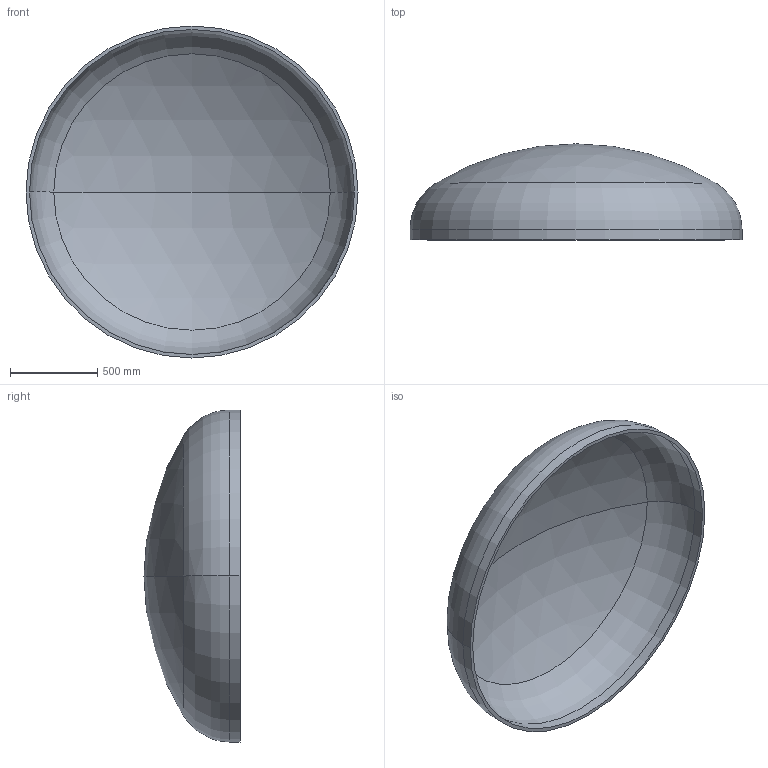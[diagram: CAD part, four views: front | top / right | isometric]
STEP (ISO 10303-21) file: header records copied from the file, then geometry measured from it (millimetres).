
FILE_DESCRIPTION (( 'STEP AP203' ), '1' );
FILE_NAME ('DIN 28013 Korbbogenform_-_Boden DIN 28013 - 1900 x 60 - I - s=20.step', '2016-07-01T12:59:02', ( '' ), ( '' ), 'SwSTEP 2.0', 'SolidWorks 2013', '' );
FILE_SCHEMA (( 'CONFIG_CONTROL_DESIGN' ));
Length unit declared in the file: millimetre
Products named in the file (1): DIN 28013 Korbbogenform_-_Boden DIN 28013 - 1900 x 60 - I - s=20
Bounding box: 1900 x 549.62 x 1900 mm (x, y, z)
Volume: 84403334.7 mm3; surface area: 8559292 mm2
Topology: 1 solids, 1 shells, 13 faces, 24 edges, 14 vertices
Faces by surface type: torus 4, cylinder 4, sphere 4, plane 1
Entity records: 407 total; most frequent: DIRECTION 72, CARTESIAN_POINT 52, ORIENTED_EDGE 48, AXIS2_PLACEMENT_3D 34, EDGE_CURVE 24, CIRCLE 20, VERTEX_POINT 14, EDGE_LOOP 14
